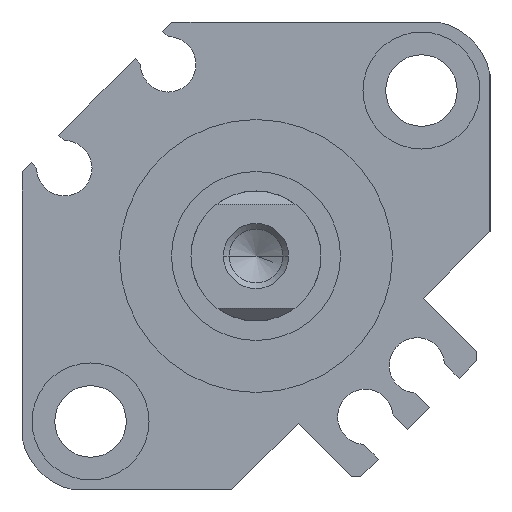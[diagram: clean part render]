
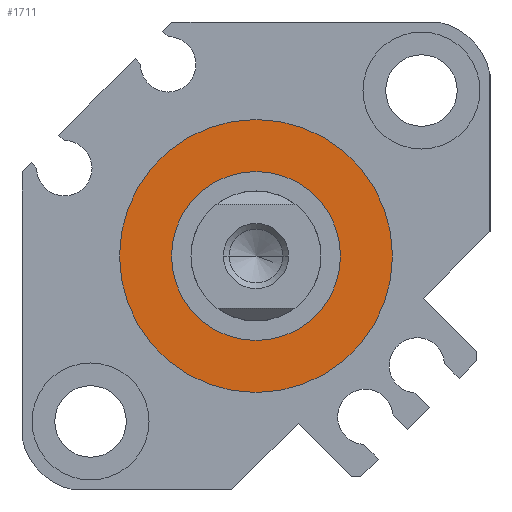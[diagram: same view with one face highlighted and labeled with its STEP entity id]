
A CAD part, left-side view. The second image highlights one B-rep face of the part: STEP entity #1711.
In plain terms, the highlighted planar face has unit normal (-1, 0, 0).
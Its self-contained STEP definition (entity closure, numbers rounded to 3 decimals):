
#68 = AXIS2_PLACEMENT_3D ( 'NONE', #3416, #1833, #1293 ) ;
#91 = VERTEX_POINT ( 'NONE', #460 ) ;
#107 = ORIENTED_EDGE ( 'NONE', *, *, #1280, .F. ) ;
#127 = DIRECTION ( 'NONE',  ( 0., 0., -1. ) ) ;
#167 = DIRECTION ( 'NONE',  ( 1., 0., 0. ) ) ;
#185 = EDGE_CURVE ( 'NONE', #91, #818, #3166, .T. ) ;
#211 = FACE_BOUND ( 'NONE', #2571, .T. ) ;
#235 = EDGE_CURVE ( 'NONE', #1064, #1396, #1561, .T. ) ;
#281 = AXIS2_PLACEMENT_3D ( 'NONE', #450, #2597, #1482 ) ;
#298 = AXIS2_PLACEMENT_3D ( 'NONE', #3083, #3394, #733 ) ;
#450 = CARTESIAN_POINT ( 'NONE',  ( 1.6, 0., 0. ) ) ;
#460 = CARTESIAN_POINT ( 'NONE',  ( 1.6, 0., -6.5 ) ) ;
#468 = ORIENTED_EDGE ( 'NONE', *, *, #185, .T. ) ;
#733 = DIRECTION ( 'NONE',  ( 0., 0., -1. ) ) ;
#745 = PLANE ( 'NONE',  #281 ) ;
#818 = VERTEX_POINT ( 'NONE', #3039 ) ;
#1064 = VERTEX_POINT ( 'NONE', #1651 ) ;
#1191 = AXIS2_PLACEMENT_3D ( 'NONE', #1747, #1487, #127 ) ;
#1280 = EDGE_CURVE ( 'NONE', #1396, #1064, #2119, .T. ) ;
#1293 = DIRECTION ( 'NONE',  ( 0., 0., -1. ) ) ;
#1396 = VERTEX_POINT ( 'NONE', #2915 ) ;
#1482 = DIRECTION ( 'NONE',  ( 0., 1., 0. ) ) ;
#1487 = DIRECTION ( 'NONE',  ( 1., 0., 0. ) ) ;
#1521 = EDGE_LOOP ( 'NONE', ( #2324, #107 ) ) ;
#1538 = FACE_OUTER_BOUND ( 'NONE', #1521, .T. ) ;
#1561 = CIRCLE ( 'NONE', #68, 10.5 ) ;
#1651 = CARTESIAN_POINT ( 'NONE',  ( 1.6, 0., 10.5 ) ) ;
#1711 = ADVANCED_FACE ( 'NONE', ( #1538, #211 ), #745, .F. ) ;
#1747 = CARTESIAN_POINT ( 'NONE',  ( 1.6, 0., 0. ) ) ;
#1793 = DIRECTION ( 'NONE',  ( 0., 0., -1. ) ) ;
#1833 = DIRECTION ( 'NONE',  ( 1., 0., 0. ) ) ;
#2119 = CIRCLE ( 'NONE', #298, 10.5 ) ;
#2324 = ORIENTED_EDGE ( 'NONE', *, *, #235, .F. ) ;
#2571 = EDGE_LOOP ( 'NONE', ( #3093, #468 ) ) ;
#2597 = DIRECTION ( 'NONE',  ( 1., 0., 0. ) ) ;
#2915 = CARTESIAN_POINT ( 'NONE',  ( 1.6, 0., -10.5 ) ) ;
#2961 = CIRCLE ( 'NONE', #1191, 6.5 ) ;
#3039 = CARTESIAN_POINT ( 'NONE',  ( 1.6, 0., 6.5 ) ) ;
#3071 = CARTESIAN_POINT ( 'NONE',  ( 1.6, 0., 0. ) ) ;
#3083 = CARTESIAN_POINT ( 'NONE',  ( 1.6, 0., 0. ) ) ;
#3093 = ORIENTED_EDGE ( 'NONE', *, *, #3186, .T. ) ;
#3166 = CIRCLE ( 'NONE', #3218, 6.5 ) ;
#3186 = EDGE_CURVE ( 'NONE', #818, #91, #2961, .T. ) ;
#3218 = AXIS2_PLACEMENT_3D ( 'NONE', #3071, #167, #1793 ) ;
#3394 = DIRECTION ( 'NONE',  ( 1., 0., 0. ) ) ;
#3416 = CARTESIAN_POINT ( 'NONE',  ( 1.6, 0., 0. ) ) ;
